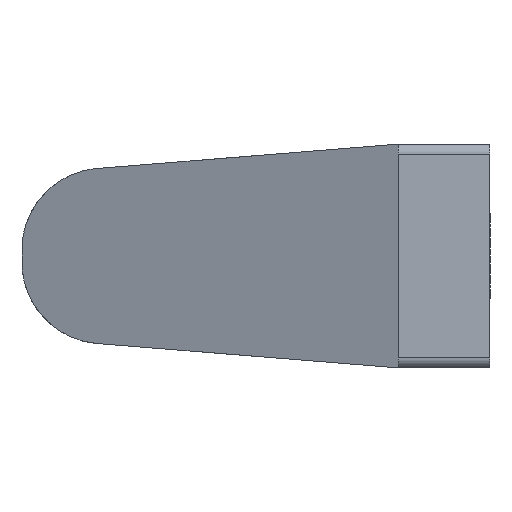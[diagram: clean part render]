
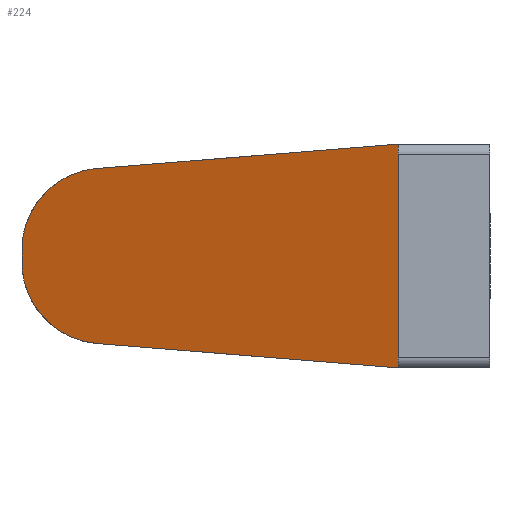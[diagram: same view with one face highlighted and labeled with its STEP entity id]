
A CAD part, left-side view. The second image highlights one B-rep face of the part: STEP entity #224.
In plain terms, the highlighted planar face has unit normal (-0.944, 0.332, 0).
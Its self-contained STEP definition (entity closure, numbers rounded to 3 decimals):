
#6 = CARTESIAN_POINT ( 'NONE',  ( -87.445, 10.579, -10.872 ) ) ;
#21 = PLANE ( 'NONE',  #105 ) ;
#76 = VECTOR ( 'NONE', #642, 1000. ) ;
#91 = FACE_OUTER_BOUND ( 'NONE', #342, .T. ) ;
#97 = CARTESIAN_POINT ( 'NONE',  ( -88., 9., 11. ) ) ;
#102 = CARTESIAN_POINT ( 'NONE',  ( -75., 46., -0.622 ) ) ;
#105 = AXIS2_PLACEMENT_3D ( 'NONE', #97, #341, #514 ) ;
#137 = CARTESIAN_POINT ( 'NONE',  ( -77.584, 38.647, -8.596 ) ) ;
#146 = EDGE_CURVE ( 'NONE', #1008, #795, #573, .T. ) ;
#149 = CARTESIAN_POINT ( 'NONE',  ( -75., 46., 11. ) ) ;
#159 = CARTESIAN_POINT ( 'NONE',  ( -77.584, 38.647, 8.596 ) ) ;
#181 = ORIENTED_EDGE ( 'NONE', *, *, #239, .F. ) ;
#192 = CARTESIAN_POINT ( 'NONE',  ( -88., 9., 11. ) ) ;
#224 = ADVANCED_FACE ( 'NONE', ( #91 ), #21, .F. ) ;
#229 = VERTEX_POINT ( 'NONE', #740 ) ;
#239 = EDGE_CURVE ( 'NONE', #229, #676, #346, .T. ) ;
#258 = CARTESIAN_POINT ( 'NONE',  ( -88., 9., -11. ) ) ;
#289 = VERTEX_POINT ( 'NONE', #508 ) ;
#313 = CARTESIAN_POINT ( 'NONE',  ( -76.046, 43.023, 8.241 ) ) ;
#333 = ORIENTED_EDGE ( 'NONE', *, *, #146, .F. ) ;
#337 = VECTOR ( 'NONE', #664, 1000. ) ;
#341 = DIRECTION ( 'NONE',  ( 0.943, -0.331, 0. ) ) ;
#342 = EDGE_LOOP ( 'NONE', ( #181, #538, #474, #985, #333, #460 ) ) ;
#346 = LINE ( 'NONE', #192, #337 ) ;
#388 = CARTESIAN_POINT ( 'NONE',  ( -88., 9., 11. ) ) ;
#393 = CARTESIAN_POINT ( 'NONE',  ( -75., 46., 0.622 ) ) ;
#460 = ORIENTED_EDGE ( 'NONE', *, *, #572, .F. ) ;
#474 = ORIENTED_EDGE ( 'NONE', *, *, #605, .T. ) ;
#481 = DIRECTION ( 'NONE',  ( 0., 0., -1. ) ) ;
#508 = CARTESIAN_POINT ( 'NONE',  ( -75., 46., 0.622 ) ) ;
#511 = CARTESIAN_POINT ( 'NONE',  ( -88., 9., 11. ) ) ;
#514 = DIRECTION ( 'NONE',  ( 0.331, 0.943, 0. ) ) ;
#527 = EDGE_CURVE ( 'NONE', #289, #229, #666, .T. ) ;
#531 = EDGE_CURVE ( 'NONE', #795, #672, #624, .T. ) ;
#538 = ORIENTED_EDGE ( 'NONE', *, *, #527, .F. ) ;
#550 = CARTESIAN_POINT ( 'NONE',  ( -77.584, 38.647, -8.596 ) ) ;
#564 = CARTESIAN_POINT ( 'NONE',  ( -75., 46., -5.013 ) ) ;
#569 = DIRECTION ( 'NONE',  ( 0.331, 0.941, 0.076 ) ) ;
#572 = EDGE_CURVE ( 'NONE', #676, #1008, #787, .T. ) ;
#573 = LINE ( 'NONE', #6, #592 ) ;
#592 = VECTOR ( 'NONE', #569, 1000. ) ;
#605 = EDGE_CURVE ( 'NONE', #289, #672, #876, .T. ) ;
#611 = VECTOR ( 'NONE', #481, 1000. ) ;
#624 =( BOUNDED_CURVE ( )  B_SPLINE_CURVE ( 3, ( #550, #721, #564, #973 ),
 .UNSPECIFIED., .F., .F. ) 
 B_SPLINE_CURVE_WITH_KNOTS ( ( 4, 4 ),
 ( 1.652, 3.142 ),
 .UNSPECIFIED. ) 
 CURVE ( )  GEOMETRIC_REPRESENTATION_ITEM ( )  RATIONAL_B_SPLINE_CURVE ( ( 1., 0.823, 0.823, 1. ) ) 
 REPRESENTATION_ITEM ( '' )  );
#642 = DIRECTION ( 'NONE',  ( 0., 0., -1. ) ) ;
#664 = DIRECTION ( 'NONE',  ( -0.331, -0.941, 0.076 ) ) ;
#666 =( BOUNDED_CURVE ( )  B_SPLINE_CURVE ( 3, ( #393, #718, #313, #159 ),
 .UNSPECIFIED., .F., .F. ) 
 B_SPLINE_CURVE_WITH_KNOTS ( ( 4, 4 ),
 ( 3.142, 4.631 ),
 .UNSPECIFIED. ) 
 CURVE ( )  GEOMETRIC_REPRESENTATION_ITEM ( )  RATIONAL_B_SPLINE_CURVE ( ( 1., 0.823, 0.823, 1. ) ) 
 REPRESENTATION_ITEM ( '' )  );
#672 = VERTEX_POINT ( 'NONE', #102 ) ;
#676 = VERTEX_POINT ( 'NONE', #511 ) ;
#718 = CARTESIAN_POINT ( 'NONE',  ( -75., 46., 5.013 ) ) ;
#721 = CARTESIAN_POINT ( 'NONE',  ( -76.046, 43.023, -8.241 ) ) ;
#740 = CARTESIAN_POINT ( 'NONE',  ( -77.584, 38.647, 8.596 ) ) ;
#787 = LINE ( 'NONE', #388, #76 ) ;
#795 = VERTEX_POINT ( 'NONE', #137 ) ;
#876 = LINE ( 'NONE', #149, #611 ) ;
#973 = CARTESIAN_POINT ( 'NONE',  ( -75., 46., -0.622 ) ) ;
#985 = ORIENTED_EDGE ( 'NONE', *, *, #531, .F. ) ;
#1008 = VERTEX_POINT ( 'NONE', #258 ) ;
